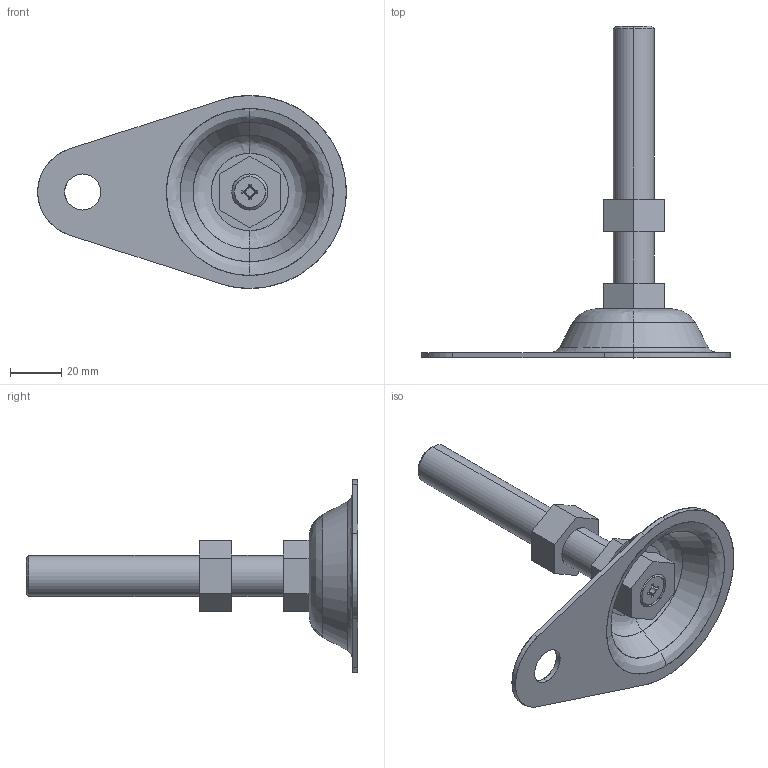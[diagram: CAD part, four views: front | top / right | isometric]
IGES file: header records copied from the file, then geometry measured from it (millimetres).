
Start section: SolidWorks IGES file using analytic representation for surfaces
Bounding box: 120 x 129 x 75 mm (x, y, z)
Surface area: 23791.7 mm2 (no closed solid volume)
Topology: 0 solids, 0 shells, 75 faces, 968 edges, 968 vertices
Faces by surface type: bspline 51, revolution 24
